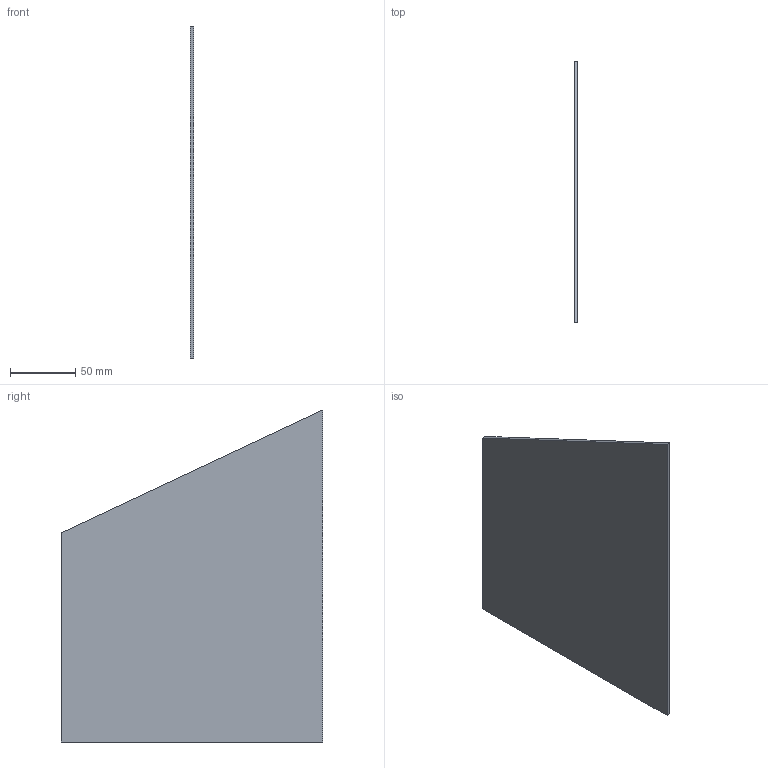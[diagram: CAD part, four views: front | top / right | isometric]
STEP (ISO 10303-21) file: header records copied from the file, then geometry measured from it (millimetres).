
FILE_DESCRIPTION(/* description */ (''),/* implementation_level */ '2;1');
FILE_NAME(/* name */ 'Winglet.step',/* time_stamp */ '2023-08-12T23:56:33+03:00',/* author */ (''),/* organization */ (''),/* preprocessor_version */ 'ST-DEVELOPER v20',/* originating_system */ 'Autodesk Translation Framework v12.9.0.99',/* authorisation */ '');
FILE_SCHEMA (('AUTOMOTIVE_DESIGN { 1 0 10303 214 3 1 1 }'));
Length unit declared in the file: millimetre
Products named in the file (1): 2.3-Winglet
Bounding box: 3 x 200 x 253.96 mm (x, y, z)
Volume: 124187.1 mm3; surface area: 85296.2 mm2
Topology: 1 solids, 1 shells, 6 faces, 12 edges, 8 vertices
Faces by surface type: plane 6
Entity records: 189 total; most frequent: CARTESIAN_POINT 27, DIRECTION 26, ORIENTED_EDGE 24, LINE 12, VECTOR 12, EDGE_CURVE 12, VERTEX_POINT 8, AXIS2_PLACEMENT_3D 7
